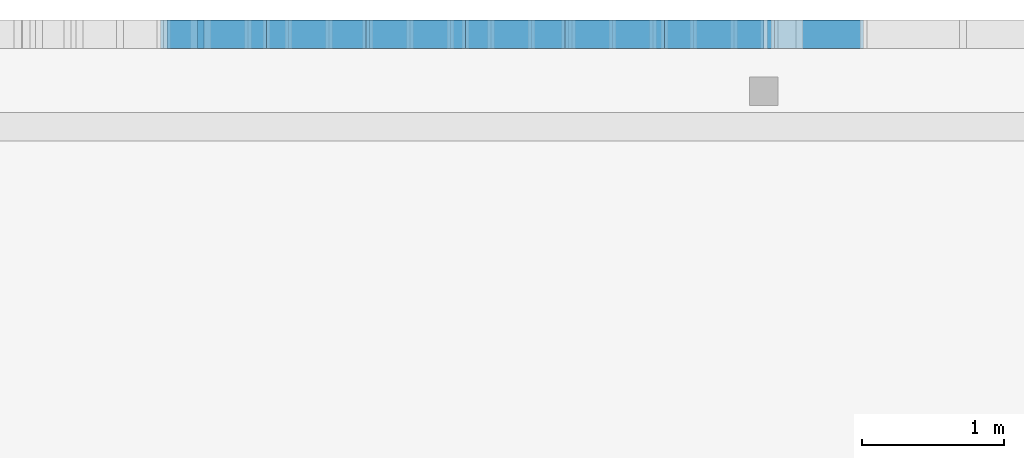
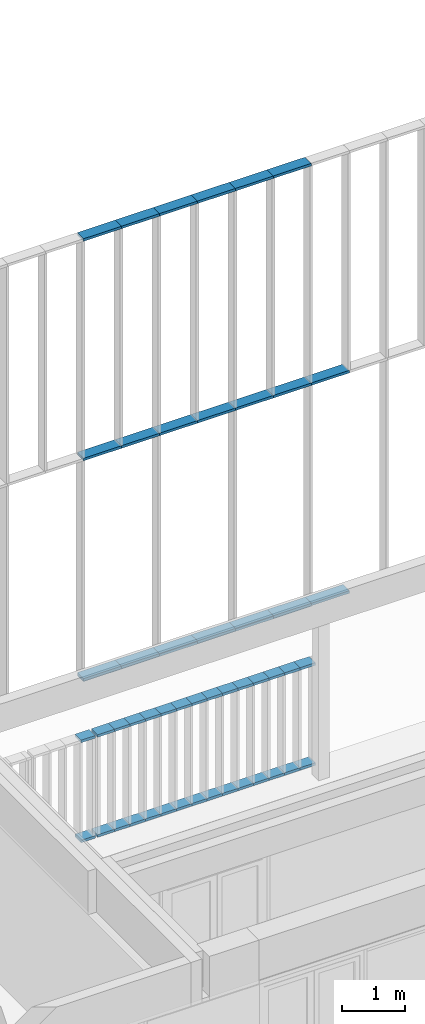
# One storey, part 46 of 240: 56 members, 3 elements without a shape of their own.
"""IFC2X3 building model written with IfcOpenShell, lengths in centimetres."""

from ifc_helpers import new_model, entity, si_unit, converted_unit, derived_unit, direction, frame, origin, origin_2d_with_axis, place, context, subcontext, project, spatial, rectangle, extrude, source, transform, mapped, material, type_object, type_shapes, element, aggregate, save


model = new_model("IFC2X3")

# Units and contexts
model_context = context("Model", 3, precision=0.001, world=origin(), true_north=direction((6.12303176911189e-17, 1.0)))
body_context = subcontext(model_context, "Body", "Model", "MODEL_VIEW")
ifc_project = project(units=[si_unit("LENGTHUNIT", "METRE", prefix="CENTI"), si_unit("AREAUNIT", "SQUARE_METRE"), si_unit("VOLUMEUNIT", "CUBIC_METRE"), converted_unit("PLANEANGLEUNIT", "DEGREE", entity("IfcRatioMeasure", 0.0174532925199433), si_unit("PLANEANGLEUNIT", "RADIAN"), dimensions=[0, 0, 0, 0, 0, 0, 0]), si_unit("MASSUNIT", "GRAM", prefix="KILO"), derived_unit("MASSDENSITYUNIT", [(si_unit("MASSUNIT", "GRAM", prefix="KILO"), 1), (si_unit("LENGTHUNIT", "METRE"), -3)]), si_unit("TIMEUNIT", "SECOND"), si_unit("FREQUENCYUNIT", "HERTZ"), si_unit("THERMODYNAMICTEMPERATUREUNIT", "DEGREE_CELSIUS"), derived_unit("THERMALTRANSMITTANCEUNIT", [(si_unit("MASSUNIT", "GRAM", prefix="KILO"), 1), (si_unit("THERMODYNAMICTEMPERATUREUNIT", "KELVIN"), -1), (si_unit("TIMEUNIT", "SECOND"), -3)]), derived_unit("VOLUMETRICFLOWRATEUNIT", [(si_unit("LENGTHUNIT", "METRE"), 3), (si_unit("TIMEUNIT", "SECOND"), -1)]), si_unit("ELECTRICCURRENTUNIT", "AMPERE"), si_unit("ELECTRICVOLTAGEUNIT", "VOLT"), si_unit("POWERUNIT", "WATT"), si_unit("FORCEUNIT", "NEWTON", prefix="KILO"), si_unit("ILLUMINANCEUNIT", "LUX"), si_unit("LUMINOUSFLUXUNIT", "LUMEN"), si_unit("LUMINOUSINTENSITYUNIT", "CANDELA"), derived_unit("USERDEFINED", [(si_unit("MASSUNIT", "GRAM", prefix="KILO"), -1), (si_unit("LENGTHUNIT", "METRE"), -2), (si_unit("TIMEUNIT", "SECOND"), 3), (si_unit("LUMINOUSFLUXUNIT", "LUMEN"), 1)]), derived_unit("LINEARVELOCITYUNIT", [(si_unit("LENGTHUNIT", "METRE"), 1), (si_unit("TIMEUNIT", "SECOND"), -1)]), si_unit("PRESSUREUNIT", "PASCAL"), derived_unit("USERDEFINED", [(si_unit("LENGTHUNIT", "METRE"), -2), (si_unit("MASSUNIT", "GRAM", prefix="KILO"), 1), (si_unit("TIMEUNIT", "SECOND"), -2)])], contexts=[model_context])

# Site, building, storey
site_placement = place(None, frame((-2781.94577612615, 7442.24238424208, 0.0)))
site = spatial("IfcSite", under=ifc_project, at=site_placement, Name="Default", CompositionType="ELEMENT")
building_placement = place(site_placement, origin())
building = spatial("IfcBuilding", under=site, at=building_placement, CompositionType="ELEMENT")
storey_placement = place(building_placement, origin())
storey = spatial("IfcBuildingStorey", under=building, at=storey_placement, Name="N00 - COO", CompositionType="ELEMENT", Elevation=0.0)

# Curtain wall, members
curtain_wall_type_1 = type_object("IfcCurtainWallType", Name="Mur-rideau:Epines - 200x50mm", PredefinedType="NOTDEFINED")
curtain_wall_1_placement = place(building_placement, origin())
curtain_wall_1 = element("IfcCurtainWall", 1, at=curtain_wall_1_placement, inside=storey, type_object=curtain_wall_type_1, Name="Mur-rideau:Epines - 200x50mm", ObjectType="Mur-rideau:Epines - 200x50mm")
ifc_material = material(Name="Aluminium")
member_type_1 = type_object("IfcMemberType", Name="200x50 mm", PredefinedType="MEMBER")
shared_shape_1 = source(origin(), body_context, "Body", "SweptSolid", [
    extrude(rectangle(XDim=20.0, YDim=5.0, at=origin_2d_with_axis()), frame((-2.5, 0.0, -70.0), z_axis=(0.0, 0.0, 1.0), x_axis=(0.0, -1.0, 0.0)), (0.0, 0.0, 1.0), 70.0000000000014),
])
type_shapes(member_type_1, [shared_shape_1])
member_1_placement = place(building_placement, frame((-4209.49987760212, 40.0, 1176.0), z_axis=(1.0, 0.0, 0.0), x_axis=(0.0, 0.0, 1.0)))
member_1 = element("IfcMember", 2, at=member_1_placement, type_object=member_type_1, material=ifc_material, Name="Meneau rectangulaire:200x50 mm", ObjectType="Meneau rectangulaire:200x50 mm", context=body_context, shape_type="MappedRepresentation", body=[
    mapped(shared_shape_1, transform((0.0, 0.0, 0.0), scale=1.0)),
])
member_2_placement = place(building_placement, frame((-4349.49987760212, 40.0, 1176.0), z_axis=(1.0, 0.0, 0.0), x_axis=(0.0, 0.0, 1.0)))
member_2 = element("IfcMember", 3, at=member_2_placement, type_object=member_type_1, material=ifc_material, Name="Meneau rectangulaire:200x50 mm", ObjectType="Meneau rectangulaire:200x50 mm", context=body_context, shape_type="MappedRepresentation", body=[
    mapped(shared_shape_1, transform((0.0, 0.0, 0.0), scale=1.0)),
])
member_3_placement = place(building_placement, frame((-4069.50004159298, 40.0, 1176.0), z_axis=(1.0, 0.0, 0.0), x_axis=(0.0, 0.0, 1.0)))
member_3 = element("IfcMember", 4, at=member_3_placement, type_object=member_type_1, material=ifc_material, Name="Meneau rectangulaire:200x50 mm", ObjectType="Meneau rectangulaire:200x50 mm", context=body_context, shape_type="MappedRepresentation", body=[
    mapped(shared_shape_1, transform((0.0, 0.0, 0.0), scale=1.0)),
])
member_4_placement = place(building_placement, frame((-4139.49995959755, 40.0, 1176.0), z_axis=(1.0, 0.0, 0.0), x_axis=(0.0, 0.0, 1.0)))
member_4 = element("IfcMember", 5, at=member_4_placement, type_object=member_type_1, material=ifc_material, Name="Meneau rectangulaire:200x50 mm", ObjectType="Meneau rectangulaire:200x50 mm", context=body_context, shape_type="MappedRepresentation", body=[
    mapped(shared_shape_1, transform((0.0, 0.0, 0.0), scale=1.0)),
])
member_5_placement = place(building_placement, frame((-4279.49987760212, 40.0, 1176.0), z_axis=(1.0, 0.0, 0.0), x_axis=(0.0, 0.0, 1.0)))
member_5 = element("IfcMember", 6, at=member_5_placement, type_object=member_type_1, material=ifc_material, Name="Meneau rectangulaire:200x50 mm", ObjectType="Meneau rectangulaire:200x50 mm", context=body_context, shape_type="MappedRepresentation", body=[
    mapped(shared_shape_1, transform((0.0, 0.0, 0.0), scale=1.0)),
])
member_6_placement = place(building_placement, frame((-4419.49987760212, 40.0, 1176.0), z_axis=(1.0, 0.0, 0.0), x_axis=(0.0, 0.0, 1.0)))
member_6 = element("IfcMember", 7, at=member_6_placement, type_object=member_type_1, material=ifc_material, Name="Meneau rectangulaire:200x50 mm", ObjectType="Meneau rectangulaire:200x50 mm", context=body_context, shape_type="MappedRepresentation", body=[
    mapped(shared_shape_1, transform((0.0, 0.0, 0.0), scale=1.0)),
])
member_type_2 = type_object("IfcMemberType", Name="200x50 mm", PredefinedType="MEMBER")
shared_shape_2 = source(origin(), body_context, "Body", "SweptSolid", [
    extrude(rectangle(XDim=20.0, YDim=5.0, at=origin_2d_with_axis()), frame((0.0, 0.0, -70.0), z_axis=(0.0, 0.0, 1.0), x_axis=(0.0, -1.0, 0.0)), (0.0, 0.0, 1.0), 70.0000000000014),
])
type_shapes(member_type_2, [shared_shape_2])
member_7_placement = place(building_placement, frame((-4419.49987760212, 40.0, 315.0), z_axis=(1.0, 0.0, 0.0), x_axis=(0.0, 0.0, 1.0)))
member_7 = element("IfcMember", 8, at=member_7_placement, type_object=member_type_2, material=ifc_material, Name="Meneau rectangulaire:200x50 mm", ObjectType="Meneau rectangulaire:200x50 mm", context=body_context, shape_type="MappedRepresentation", body=[
    mapped(shared_shape_2, transform((0.0, 0.0, 0.0), scale=1.0)),
])
member_8_placement = place(building_placement, frame((-4279.49987760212, 40.0, 315.0), z_axis=(1.0, 0.0, 0.0), x_axis=(0.0, 0.0, 1.0)))
member_8 = element("IfcMember", 9, at=member_8_placement, type_object=member_type_2, material=ifc_material, Name="Meneau rectangulaire:200x50 mm", ObjectType="Meneau rectangulaire:200x50 mm", context=body_context, shape_type="MappedRepresentation", body=[
    mapped(shared_shape_2, transform((0.0, 0.0, 0.0), scale=1.0)),
])
member_9_placement = place(building_placement, frame((-4139.49995959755, 40.0, 315.0), z_axis=(1.0, 0.0, 0.0), x_axis=(0.0, 0.0, 1.0)))
member_9 = element("IfcMember", 10, at=member_9_placement, type_object=member_type_2, material=ifc_material, Name="Meneau rectangulaire:200x50 mm", ObjectType="Meneau rectangulaire:200x50 mm", context=body_context, shape_type="MappedRepresentation", body=[
    mapped(shared_shape_2, transform((0.0, 0.0, 0.0), scale=1.0)),
])
member_type_3 = type_object("IfcMemberType", Name="200x50 mm", PredefinedType="MEMBER")
shared_shape_3 = source(origin(), body_context, "Body", "SweptSolid", [
    extrude(rectangle(XDim=20.0, YDim=5.0, at=origin_2d_with_axis()), frame((0.0, 0.0, -70.0), z_axis=(0.0, 0.0, 1.0), x_axis=(0.0, -1.0, 0.0)), (0.0, 0.0, 1.0), 70.0000000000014),
])
type_shapes(member_type_3, [shared_shape_3])
member_10_placement = place(building_placement, frame((-4419.49987760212, 40.0, 745.5), z_axis=(1.0, 0.0, 0.0), x_axis=(0.0, 0.0, 1.0)))
member_10 = element("IfcMember", 11, at=member_10_placement, type_object=member_type_3, material=ifc_material, Name="Meneau rectangulaire:200x50 mm", ObjectType="Meneau rectangulaire:200x50 mm", context=body_context, shape_type="MappedRepresentation", body=[
    mapped(shared_shape_3, transform((0.0, 0.0, 0.0), scale=1.0)),
])
member_11_placement = place(building_placement, frame((-4139.49995959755, 40.0, 745.5), z_axis=(1.0, 0.0, 0.0), x_axis=(0.0, 0.0, 1.0)))
member_11 = element("IfcMember", 12, at=member_11_placement, type_object=member_type_3, material=ifc_material, Name="Meneau rectangulaire:200x50 mm", ObjectType="Meneau rectangulaire:200x50 mm", context=body_context, shape_type="MappedRepresentation", body=[
    mapped(shared_shape_3, transform((0.0, 0.0, 0.0), scale=1.0)),
])
member_12_placement = place(building_placement, frame((-4279.49987760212, 40.0, 745.5), z_axis=(1.0, 0.0, 0.0), x_axis=(0.0, 0.0, 1.0)))
member_12 = element("IfcMember", 13, at=member_12_placement, type_object=member_type_3, material=ifc_material, Name="Meneau rectangulaire:200x50 mm", ObjectType="Meneau rectangulaire:200x50 mm", context=body_context, shape_type="MappedRepresentation", body=[
    mapped(shared_shape_3, transform((0.0, 0.0, 0.0), scale=1.0)),
])
member_13_placement = place(building_placement, frame((-3999.49995959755, 40.0, 745.5), z_axis=(1.0, 0.0, 0.0), x_axis=(0.0, 0.0, 1.0)))
member_13 = element("IfcMember", 14, at=member_13_placement, type_object=member_type_3, material=ifc_material, Name="Meneau rectangulaire:200x50 mm", ObjectType="Meneau rectangulaire:200x50 mm", context=body_context, shape_type="MappedRepresentation", body=[
    mapped(shared_shape_3, transform((0.0, 0.0, 0.0), scale=1.0)),
])
member_14_placement = place(building_placement, frame((-4069.50004159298, 40.0, 745.5), z_axis=(1.0, 0.0, 0.0), x_axis=(0.0, 0.0, 1.0)))
member_14 = element("IfcMember", 15, at=member_14_placement, type_object=member_type_3, material=ifc_material, Name="Meneau rectangulaire:200x50 mm", ObjectType="Meneau rectangulaire:200x50 mm", context=body_context, shape_type="MappedRepresentation", body=[
    mapped(shared_shape_3, transform((0.0, 0.0, 0.0), scale=1.0)),
])
member_15_placement = place(building_placement, frame((-4209.49987760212, 40.0, 745.5), z_axis=(1.0, 0.0, 0.0), x_axis=(0.0, 0.0, 1.0)))
member_15 = element("IfcMember", 16, at=member_15_placement, type_object=member_type_3, material=ifc_material, Name="Meneau rectangulaire:200x50 mm", ObjectType="Meneau rectangulaire:200x50 mm", context=body_context, shape_type="MappedRepresentation", body=[
    mapped(shared_shape_3, transform((0.0, 0.0, 0.0), scale=1.0)),
])
member_16_placement = place(building_placement, frame((-4349.49987760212, 40.0, 745.5), z_axis=(1.0, 0.0, 0.0), x_axis=(0.0, 0.0, 1.0)))
member_16 = element("IfcMember", 17, at=member_16_placement, type_object=member_type_3, material=ifc_material, Name="Meneau rectangulaire:200x50 mm", ObjectType="Meneau rectangulaire:200x50 mm", context=body_context, shape_type="MappedRepresentation", body=[
    mapped(shared_shape_3, transform((0.0, 0.0, 0.0), scale=1.0)),
])
member_type_4 = type_object("IfcMemberType", Name="200x50 mm", PredefinedType="MEMBER")
shared_shape_4 = source(origin(), body_context, "Body", "SweptSolid", [
    extrude(rectangle(XDim=20.0, YDim=5.0, at=origin_2d_with_axis()), frame((-2.5, 0.0, -70.0), z_axis=(0.0, 0.0, 1.0), x_axis=(0.0, -1.0, 0.0)), (0.0, 0.0, 1.0), 69.9999999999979),
])
type_shapes(member_type_4, [shared_shape_4])
member_17_placement = place(building_placement, frame((-4489.49987760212, 40.0, 313.499999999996), z_axis=(-1.0, 0.0, 0.0), x_axis=(0.0, 0.0, -1.0)))
member_17 = element("IfcMember", 18, at=member_17_placement, type_object=member_type_4, material=ifc_material, Name="Meneau rectangulaire:200x50 mm", ObjectType="Meneau rectangulaire:200x50 mm", context=body_context, shape_type="MappedRepresentation", body=[
    mapped(shared_shape_4, transform((0.0, 0.0, 0.0), scale=1.0)),
])
member_18_placement = place(building_placement, frame((-4209.49987760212, 40.0, 313.499999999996), z_axis=(-1.0, 0.0, 0.0), x_axis=(0.0, 0.0, -1.0)))
member_18 = element("IfcMember", 19, at=member_18_placement, type_object=member_type_4, material=ifc_material, Name="Meneau rectangulaire:200x50 mm", ObjectType="Meneau rectangulaire:200x50 mm", context=body_context, shape_type="MappedRepresentation", body=[
    mapped(shared_shape_4, transform((0.0, 0.0, 0.0), scale=1.0)),
])
member_19_placement = place(building_placement, frame((-4349.49987760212, 40.0, 313.499999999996), z_axis=(-1.0, 0.0, 0.0), x_axis=(0.0, 0.0, -1.0)))
member_19 = element("IfcMember", 20, at=member_19_placement, type_object=member_type_4, material=ifc_material, Name="Meneau rectangulaire:200x50 mm", ObjectType="Meneau rectangulaire:200x50 mm", context=body_context, shape_type="MappedRepresentation", body=[
    mapped(shared_shape_4, transform((0.0, 0.0, 0.0), scale=1.0)),
])
member_20_placement = place(building_placement, frame((-4069.50004159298, 40.0, 313.499999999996), z_axis=(-1.0, 0.0, 0.0), x_axis=(0.0, 0.0, -1.0)))
member_20 = element("IfcMember", 21, at=member_20_placement, type_object=member_type_4, material=ifc_material, Name="Meneau rectangulaire:200x50 mm", ObjectType="Meneau rectangulaire:200x50 mm", context=body_context, shape_type="MappedRepresentation", body=[
    mapped(shared_shape_4, transform((0.0, 0.0, 0.0), scale=1.0)),
])
member_21_placement = place(building_placement, frame((-4139.49995959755, 40.0, 313.499999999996), z_axis=(-1.0, 0.0, 0.0), x_axis=(0.0, 0.0, -1.0)))
member_21 = element("IfcMember", 22, at=member_21_placement, type_object=member_type_4, material=ifc_material, Name="Meneau rectangulaire:200x50 mm", ObjectType="Meneau rectangulaire:200x50 mm", context=body_context, shape_type="MappedRepresentation", body=[
    mapped(shared_shape_4, transform((0.0, 0.0, 0.0), scale=1.0)),
])
member_22_placement = place(building_placement, frame((-4279.49987760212, 40.0, 313.499999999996), z_axis=(-1.0, 0.0, 0.0), x_axis=(0.0, 0.0, -1.0)))
member_22 = element("IfcMember", 23, at=member_22_placement, type_object=member_type_4, material=ifc_material, Name="Meneau rectangulaire:200x50 mm", ObjectType="Meneau rectangulaire:200x50 mm", context=body_context, shape_type="MappedRepresentation", body=[
    mapped(shared_shape_4, transform((0.0, 0.0, 0.0), scale=1.0)),
])
member_23_placement = place(building_placement, frame((-4419.49987760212, 40.0, 313.499999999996), z_axis=(-1.0, 0.0, 0.0), x_axis=(0.0, 0.0, -1.0)))
member_23 = element("IfcMember", 24, at=member_23_placement, type_object=member_type_4, material=ifc_material, Name="Meneau rectangulaire:200x50 mm", ObjectType="Meneau rectangulaire:200x50 mm", context=body_context, shape_type="MappedRepresentation", body=[
    mapped(shared_shape_4, transform((0.0, 0.0, 0.0), scale=1.0)),
])
member_type_5 = type_object("IfcMemberType", Name="200x50 mm", PredefinedType="MEMBER")
shared_shape_5 = source(origin(), body_context, "Body", "SweptSolid", [
    extrude(rectangle(XDim=20.0, YDim=5.0, at=origin_2d_with_axis()), frame((0.0, 0.0, -70.0), z_axis=(0.0, 0.0, 1.0), x_axis=(0.0, -1.0, 0.0)), (0.0, 0.0, 1.0), 70.0000000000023),
])
type_shapes(member_type_5, [shared_shape_5])
member_24_placement = place(building_placement, frame((-4349.49987760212, 40.0, 315.0), z_axis=(1.0, 0.0, 0.0), x_axis=(0.0, 0.0, 1.0)))
member_24 = element("IfcMember", 25, at=member_24_placement, type_object=member_type_5, material=ifc_material, Name="Meneau rectangulaire:200x50 mm", ObjectType="Meneau rectangulaire:200x50 mm", context=body_context, shape_type="MappedRepresentation", body=[
    mapped(shared_shape_5, transform((0.0, 0.0, 0.0), scale=1.0)),
])
member_25_placement = place(building_placement, frame((-4209.49987760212, 40.0, 315.0), z_axis=(1.0, 0.0, 0.0), x_axis=(0.0, 0.0, 1.0)))
member_25 = element("IfcMember", 26, at=member_25_placement, type_object=member_type_5, material=ifc_material, Name="Meneau rectangulaire:200x50 mm", ObjectType="Meneau rectangulaire:200x50 mm", context=body_context, shape_type="MappedRepresentation", body=[
    mapped(shared_shape_5, transform((0.0, 0.0, 0.0), scale=1.0)),
])
member_26_placement = place(building_placement, frame((-4069.50004159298, 40.0, 315.0), z_axis=(1.0, 0.0, 0.0), x_axis=(0.0, 0.0, 1.0)))
member_26 = element("IfcMember", 27, at=member_26_placement, type_object=member_type_5, material=ifc_material, Name="Meneau rectangulaire:200x50 mm", ObjectType="Meneau rectangulaire:200x50 mm", context=body_context, shape_type="MappedRepresentation", body=[
    mapped(shared_shape_5, transform((0.0, 0.0, 0.0), scale=1.0)),
])
aggregate(curtain_wall_1, [member_17, member_10, member_1, member_18, member_11, member_2, member_19, member_12, member_3, member_20, member_13, member_4, member_21, member_14, member_5, member_22, member_15, member_6, member_23, member_16, member_7, member_24, member_8, member_25, member_9, member_26])

curtain_wall_type_2 = type_object("IfcCurtainWallType", Name="Mur-SR", PredefinedType="NOTDEFINED")
curtain_wall_2_placement = place(building_placement, origin())
curtain_wall_2 = element("IfcCurtainWall", 28, at=curtain_wall_2_placement, inside=storey, type_object=curtain_wall_type_2, Name="Mur-rideau:SR-Clôture", ObjectType="Mur-rideau:SR-Clôture")
member_type_6 = type_object("IfcMemberType", Name="Epine nord (200x50 mm)", PredefinedType="MEMBER")
shared_shape_6 = source(origin(), body_context, "Body", "SweptSolid", [
    extrude(rectangle(XDim=20.0, YDim=5.0, at=origin_2d_with_axis()), frame((-2.5, 0.0, -31.0), z_axis=(0.0, 0.0, 1.0), x_axis=(0.0, -1.0, 0.0)), (0.0, 0.0, 1.0), 31.0000000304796),
])
type_shapes(member_type_6, [shared_shape_6])
member_27_placement = place(building_placement, frame((-4432.49291430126, 40.0, 200.0), z_axis=(1.0, 0.0, 0.0), x_axis=(0.0, 0.0, 1.0)))
member_27 = element("IfcMember", 29, at=member_27_placement, type_object=member_type_6, material=ifc_material, Name="Meneau rectangulaire:Epine nord (200x50 mm)", ObjectType="Meneau rectangulaire:Epine nord (200x50 mm)", context=body_context, shape_type="MappedRepresentation", body=[
    mapped(shared_shape_6, transform((0.0, 0.0, 0.0), scale=1.0)),
])
member_type_7 = type_object("IfcMemberType", Name="Epine nord (200x50 mm)", PredefinedType="MEMBER")
shared_shape_7 = source(origin(), body_context, "Body", "SweptSolid", [
    extrude(rectangle(XDim=20.0, YDim=5.0, at=origin_2d_with_axis()), frame((-2.5, 0.0, -28.5000000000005), z_axis=(0.0, 0.0, 1.0), x_axis=(0.0, -1.0, 0.0)), (0.0, 0.0, 1.0), 28.5000000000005),
])
type_shapes(member_type_7, [shared_shape_7])
member_28_placement = place(building_placement, frame((-4403.99291430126, 40.0, 200.0), z_axis=(1.0, 0.0, 0.0), x_axis=(0.0, 0.0, 1.0)))
member_28 = element("IfcMember", 30, at=member_28_placement, type_object=member_type_7, material=ifc_material, Name="Meneau rectangulaire:Epine nord (200x50 mm)", ObjectType="Meneau rectangulaire:Epine nord (200x50 mm)", context=body_context, shape_type="MappedRepresentation", body=[
    mapped(shared_shape_7, transform((0.0, 0.0, 0.0), scale=1.0)),
])
member_29_placement = place(building_placement, frame((-4375.49291430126, 40.0, 200.0), z_axis=(1.0, 0.0, 0.0), x_axis=(0.0, 0.0, 1.0)))
member_29 = element("IfcMember", 31, at=member_29_placement, type_object=member_type_7, material=ifc_material, Name="Meneau rectangulaire:Epine nord (200x50 mm)", ObjectType="Meneau rectangulaire:Epine nord (200x50 mm)", context=body_context, shape_type="MappedRepresentation", body=[
    mapped(shared_shape_7, transform((0.0, 0.0, 0.0), scale=1.0)),
])
member_30_placement = place(building_placement, frame((-4346.99291430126, 40.0, 200.0), z_axis=(1.0, 0.0, 0.0), x_axis=(0.0, 0.0, 1.0)))
member_30 = element("IfcMember", 32, at=member_30_placement, type_object=member_type_7, material=ifc_material, Name="Meneau rectangulaire:Epine nord (200x50 mm)", ObjectType="Meneau rectangulaire:Epine nord (200x50 mm)", context=body_context, shape_type="MappedRepresentation", body=[
    mapped(shared_shape_7, transform((0.0, 0.0, 0.0), scale=1.0)),
])
member_31_placement = place(building_placement, frame((-4318.49291430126, 40.0, 200.0), z_axis=(1.0, 0.0, 0.0), x_axis=(0.0, 0.0, 1.0)))
member_31 = element("IfcMember", 33, at=member_31_placement, type_object=member_type_7, material=ifc_material, Name="Meneau rectangulaire:Epine nord (200x50 mm)", ObjectType="Meneau rectangulaire:Epine nord (200x50 mm)", context=body_context, shape_type="MappedRepresentation", body=[
    mapped(shared_shape_7, transform((0.0, 0.0, 0.0), scale=1.0)),
])
member_32_placement = place(building_placement, frame((-4289.99291430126, 40.0, 200.0), z_axis=(1.0, 0.0, 0.0), x_axis=(0.0, 0.0, 1.0)))
member_32 = element("IfcMember", 34, at=member_32_placement, type_object=member_type_7, material=ifc_material, Name="Meneau rectangulaire:Epine nord (200x50 mm)", ObjectType="Meneau rectangulaire:Epine nord (200x50 mm)", context=body_context, shape_type="MappedRepresentation", body=[
    mapped(shared_shape_7, transform((0.0, 0.0, 0.0), scale=1.0)),
])
member_33_placement = place(building_placement, frame((-4261.49291430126, 40.0, 200.0), z_axis=(1.0, 0.0, 0.0), x_axis=(0.0, 0.0, 1.0)))
member_33 = element("IfcMember", 35, at=member_33_placement, type_object=member_type_7, material=ifc_material, Name="Meneau rectangulaire:Epine nord (200x50 mm)", ObjectType="Meneau rectangulaire:Epine nord (200x50 mm)", context=body_context, shape_type="MappedRepresentation", body=[
    mapped(shared_shape_7, transform((0.0, 0.0, 0.0), scale=1.0)),
])
member_34_placement = place(building_placement, frame((-4232.99291430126, 40.0, 200.0), z_axis=(1.0, 0.0, 0.0), x_axis=(0.0, 0.0, 1.0)))
member_34 = element("IfcMember", 36, at=member_34_placement, type_object=member_type_7, material=ifc_material, Name="Meneau rectangulaire:Epine nord (200x50 mm)", ObjectType="Meneau rectangulaire:Epine nord (200x50 mm)", context=body_context, shape_type="MappedRepresentation", body=[
    mapped(shared_shape_7, transform((0.0, 0.0, 0.0), scale=1.0)),
])
member_35_placement = place(building_placement, frame((-4204.49291430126, 40.0, 200.0), z_axis=(1.0, 0.0, 0.0), x_axis=(0.0, 0.0, 1.0)))
member_35 = element("IfcMember", 37, at=member_35_placement, type_object=member_type_7, material=ifc_material, Name="Meneau rectangulaire:Epine nord (200x50 mm)", ObjectType="Meneau rectangulaire:Epine nord (200x50 mm)", context=body_context, shape_type="MappedRepresentation", body=[
    mapped(shared_shape_7, transform((0.0, 0.0, 0.0), scale=1.0)),
])
member_36_placement = place(building_placement, frame((-4175.99291430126, 40.0, 200.0), z_axis=(1.0, 0.0, 0.0), x_axis=(0.0, 0.0, 1.0)))
member_36 = element("IfcMember", 38, at=member_36_placement, type_object=member_type_7, material=ifc_material, Name="Meneau rectangulaire:Epine nord (200x50 mm)", ObjectType="Meneau rectangulaire:Epine nord (200x50 mm)", context=body_context, shape_type="MappedRepresentation", body=[
    mapped(shared_shape_7, transform((0.0, 0.0, 0.0), scale=1.0)),
])
member_37_placement = place(building_placement, frame((-4147.49291430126, 40.0, 200.0), z_axis=(1.0, 0.0, 0.0), x_axis=(0.0, 0.0, 1.0)))
member_37 = element("IfcMember", 39, at=member_37_placement, type_object=member_type_7, material=ifc_material, Name="Meneau rectangulaire:Epine nord (200x50 mm)", ObjectType="Meneau rectangulaire:Epine nord (200x50 mm)", context=body_context, shape_type="MappedRepresentation", body=[
    mapped(shared_shape_7, transform((0.0, 0.0, 0.0), scale=1.0)),
])
member_38_placement = place(building_placement, frame((-4118.99291430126, 40.0, 200.0), z_axis=(1.0, 0.0, 0.0), x_axis=(0.0, 0.0, 1.0)))
member_38 = element("IfcMember", 40, at=member_38_placement, type_object=member_type_7, material=ifc_material, Name="Meneau rectangulaire:Epine nord (200x50 mm)", ObjectType="Meneau rectangulaire:Epine nord (200x50 mm)", context=body_context, shape_type="MappedRepresentation", body=[
    mapped(shared_shape_7, transform((0.0, 0.0, 0.0), scale=1.0)),
])
member_39_placement = place(building_placement, frame((-4090.49291430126, 40.0, 200.0), z_axis=(1.0, 0.0, 0.0), x_axis=(0.0, 0.0, 1.0)))
member_39 = element("IfcMember", 41, at=member_39_placement, type_object=member_type_7, material=ifc_material, Name="Meneau rectangulaire:Epine nord (200x50 mm)", ObjectType="Meneau rectangulaire:Epine nord (200x50 mm)", context=body_context, shape_type="MappedRepresentation", body=[
    mapped(shared_shape_7, transform((0.0, 0.0, 0.0), scale=1.0)),
])
member_40_placement = place(building_placement, frame((-4061.99291430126, 40.0, 200.0), z_axis=(1.0, 0.0, 0.0), x_axis=(0.0, 0.0, 1.0)))
member_40 = element("IfcMember", 42, at=member_40_placement, type_object=member_type_7, material=ifc_material, Name="Meneau rectangulaire:Epine nord (200x50 mm)", ObjectType="Meneau rectangulaire:Epine nord (200x50 mm)", context=body_context, shape_type="MappedRepresentation", body=[
    mapped(shared_shape_7, transform((0.0, 0.0, 0.0), scale=1.0)),
])
member_type_8 = type_object("IfcMemberType", Name="Epine nord (200x50 mm)", PredefinedType="MEMBER")
shared_shape_8 = source(origin(), body_context, "Body", "SweptSolid", [
    extrude(rectangle(XDim=20.0, YDim=5.0, at=origin_2d_with_axis()), frame((-2.5, 0.0, -28.5000000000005), z_axis=(0.0, 0.0, 1.0), x_axis=(0.0, -1.0, 0.0)), (0.0, 0.0, 1.0), 28.5000000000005),
])
type_shapes(member_type_8, [shared_shape_8])
member_41_placement = place(building_placement, frame((-4432.49291430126, 40.0, 0.0), z_axis=(-1.0, 0.0, 0.0), x_axis=(0.0, 0.0, -1.0)))
member_41 = element("IfcMember", 43, at=member_41_placement, type_object=member_type_8, material=ifc_material, Name="Meneau rectangulaire:Epine nord (200x50 mm)", ObjectType="Meneau rectangulaire:Epine nord (200x50 mm)", context=body_context, shape_type="MappedRepresentation", body=[
    mapped(shared_shape_8, transform((0.0, 0.0, 0.0), scale=1.0)),
])
member_42_placement = place(building_placement, frame((-4403.99291430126, 40.0, 0.0), z_axis=(-1.0, 0.0, 0.0), x_axis=(0.0, 0.0, -1.0)))
member_42 = element("IfcMember", 44, at=member_42_placement, type_object=member_type_8, material=ifc_material, Name="Meneau rectangulaire:Epine nord (200x50 mm)", ObjectType="Meneau rectangulaire:Epine nord (200x50 mm)", context=body_context, shape_type="MappedRepresentation", body=[
    mapped(shared_shape_8, transform((0.0, 0.0, 0.0), scale=1.0)),
])
member_43_placement = place(building_placement, frame((-4375.49291430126, 40.0, 0.0), z_axis=(-1.0, 0.0, 0.0), x_axis=(0.0, 0.0, -1.0)))
member_43 = element("IfcMember", 45, at=member_43_placement, type_object=member_type_8, material=ifc_material, Name="Meneau rectangulaire:Epine nord (200x50 mm)", ObjectType="Meneau rectangulaire:Epine nord (200x50 mm)", context=body_context, shape_type="MappedRepresentation", body=[
    mapped(shared_shape_8, transform((0.0, 0.0, 0.0), scale=1.0)),
])
member_44_placement = place(building_placement, frame((-4346.99291430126, 40.0, 0.0), z_axis=(-1.0, 0.0, 0.0), x_axis=(0.0, 0.0, -1.0)))
member_44 = element("IfcMember", 46, at=member_44_placement, type_object=member_type_8, material=ifc_material, Name="Meneau rectangulaire:Epine nord (200x50 mm)", ObjectType="Meneau rectangulaire:Epine nord (200x50 mm)", context=body_context, shape_type="MappedRepresentation", body=[
    mapped(shared_shape_8, transform((0.0, 0.0, 0.0), scale=1.0)),
])
member_45_placement = place(building_placement, frame((-4318.49291430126, 40.0, 0.0), z_axis=(-1.0, 0.0, 0.0), x_axis=(0.0, 0.0, -1.0)))
member_45 = element("IfcMember", 47, at=member_45_placement, type_object=member_type_8, material=ifc_material, Name="Meneau rectangulaire:Epine nord (200x50 mm)", ObjectType="Meneau rectangulaire:Epine nord (200x50 mm)", context=body_context, shape_type="MappedRepresentation", body=[
    mapped(shared_shape_8, transform((0.0, 0.0, 0.0), scale=1.0)),
])
member_46_placement = place(building_placement, frame((-4289.99291430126, 40.0, 0.0), z_axis=(-1.0, 0.0, 0.0), x_axis=(0.0, 0.0, -1.0)))
member_46 = element("IfcMember", 48, at=member_46_placement, type_object=member_type_8, material=ifc_material, Name="Meneau rectangulaire:Epine nord (200x50 mm)", ObjectType="Meneau rectangulaire:Epine nord (200x50 mm)", context=body_context, shape_type="MappedRepresentation", body=[
    mapped(shared_shape_8, transform((0.0, 0.0, 0.0), scale=1.0)),
])
member_47_placement = place(building_placement, frame((-4261.49291430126, 40.0, 0.0), z_axis=(-1.0, 0.0, 0.0), x_axis=(0.0, 0.0, -1.0)))
member_47 = element("IfcMember", 49, at=member_47_placement, type_object=member_type_8, material=ifc_material, Name="Meneau rectangulaire:Epine nord (200x50 mm)", ObjectType="Meneau rectangulaire:Epine nord (200x50 mm)", context=body_context, shape_type="MappedRepresentation", body=[
    mapped(shared_shape_8, transform((0.0, 0.0, 0.0), scale=1.0)),
])
member_48_placement = place(building_placement, frame((-4232.99291430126, 40.0, 0.0), z_axis=(-1.0, 0.0, 0.0), x_axis=(0.0, 0.0, -1.0)))
member_48 = element("IfcMember", 50, at=member_48_placement, type_object=member_type_8, material=ifc_material, Name="Meneau rectangulaire:Epine nord (200x50 mm)", ObjectType="Meneau rectangulaire:Epine nord (200x50 mm)", context=body_context, shape_type="MappedRepresentation", body=[
    mapped(shared_shape_8, transform((0.0, 0.0, 0.0), scale=1.0)),
])
member_49_placement = place(building_placement, frame((-4204.49291430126, 40.0, 0.0), z_axis=(-1.0, 0.0, 0.0), x_axis=(0.0, 0.0, -1.0)))
member_49 = element("IfcMember", 51, at=member_49_placement, type_object=member_type_8, material=ifc_material, Name="Meneau rectangulaire:Epine nord (200x50 mm)", ObjectType="Meneau rectangulaire:Epine nord (200x50 mm)", context=body_context, shape_type="MappedRepresentation", body=[
    mapped(shared_shape_8, transform((0.0, 0.0, 0.0), scale=1.0)),
])
member_50_placement = place(building_placement, frame((-4175.99291430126, 40.0, 0.0), z_axis=(-1.0, 0.0, 0.0), x_axis=(0.0, 0.0, -1.0)))
member_50 = element("IfcMember", 52, at=member_50_placement, type_object=member_type_8, material=ifc_material, Name="Meneau rectangulaire:Epine nord (200x50 mm)", ObjectType="Meneau rectangulaire:Epine nord (200x50 mm)", context=body_context, shape_type="MappedRepresentation", body=[
    mapped(shared_shape_8, transform((0.0, 0.0, 0.0), scale=1.0)),
])
member_51_placement = place(building_placement, frame((-4147.49291430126, 40.0, 0.0), z_axis=(-1.0, 0.0, 0.0), x_axis=(0.0, 0.0, -1.0)))
member_51 = element("IfcMember", 53, at=member_51_placement, type_object=member_type_8, material=ifc_material, Name="Meneau rectangulaire:Epine nord (200x50 mm)", ObjectType="Meneau rectangulaire:Epine nord (200x50 mm)", context=body_context, shape_type="MappedRepresentation", body=[
    mapped(shared_shape_8, transform((0.0, 0.0, 0.0), scale=1.0)),
])
member_52_placement = place(building_placement, frame((-4118.99291430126, 40.0, 0.0), z_axis=(-1.0, 0.0, 0.0), x_axis=(0.0, 0.0, -1.0)))
member_52 = element("IfcMember", 54, at=member_52_placement, type_object=member_type_8, material=ifc_material, Name="Meneau rectangulaire:Epine nord (200x50 mm)", ObjectType="Meneau rectangulaire:Epine nord (200x50 mm)", context=body_context, shape_type="MappedRepresentation", body=[
    mapped(shared_shape_8, transform((0.0, 0.0, 0.0), scale=1.0)),
])
member_53_placement = place(building_placement, frame((-4090.49291430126, 40.0, 0.0), z_axis=(-1.0, 0.0, 0.0), x_axis=(0.0, 0.0, -1.0)))
member_53 = element("IfcMember", 55, at=member_53_placement, type_object=member_type_8, material=ifc_material, Name="Meneau rectangulaire:Epine nord (200x50 mm)", ObjectType="Meneau rectangulaire:Epine nord (200x50 mm)", context=body_context, shape_type="MappedRepresentation", body=[
    mapped(shared_shape_8, transform((0.0, 0.0, 0.0), scale=1.0)),
])
member_type_9 = type_object("IfcMemberType", Name="Epine nord (200x50 mm)", PredefinedType="MEMBER")
shared_shape_9 = source(origin(), body_context, "Body", "SweptSolid", [
    extrude(rectangle(XDim=20.0, YDim=5.0, at=origin_2d_with_axis()), frame((-2.5, 0.0, -31.0), z_axis=(0.0, 0.0, 1.0), x_axis=(0.0, -1.0, 0.0)), (0.0, 0.0, 1.0), 31.0000000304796),
])
type_shapes(member_type_9, [shared_shape_9])
member_54_placement = place(building_placement, frame((-4463.49291433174, 40.0, 0.0), z_axis=(-1.0, 0.0, 0.0), x_axis=(0.0, 0.0, -1.0)))
member_54 = element("IfcMember", 56, at=member_54_placement, type_object=member_type_9, material=ifc_material, Name="Meneau rectangulaire:Epine nord (200x50 mm)", ObjectType="Meneau rectangulaire:Epine nord (200x50 mm)", context=body_context, shape_type="MappedRepresentation", body=[
    mapped(shared_shape_9, transform((0.0, 0.0, 0.0), scale=1.0)),
])
aggregate(curtain_wall_2, [member_27, member_28, member_29, member_30, member_31, member_32, member_33, member_34, member_35, member_36, member_37, member_38, member_39, member_54, member_41, member_42, member_43, member_44, member_45, member_46, member_47, member_48, member_49, member_50, member_51, member_52, member_53, member_40])

curtain_wall_3_placement = place(storey_placement, origin())
curtain_wall_3 = element("IfcCurtainWall", 57, at=curtain_wall_3_placement, inside=storey, type_object=curtain_wall_type_2, Name="Mur-SR", ObjectType="Mur-SR")
member_type_10 = type_object("IfcMemberType", Name="Epine nord (200x50 mm)", PredefinedType="MEMBER")
shared_shape_10 = source(origin(), body_context, "Body", "SweptSolid", [
    extrude(rectangle(XDim=20.0, YDim=5.0, at=origin_2d_with_axis()), frame((-2.5, 0.0, -26.0), z_axis=(0.0, 0.0, 1.0), x_axis=(0.0, -1.0, 0.0)), (0.0, 0.0, 1.0), 25.9999999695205),
])
type_shapes(member_type_10, [shared_shape_10])
member_55_placement = place(storey_placement, frame((-4493.99291430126, 40.0, 0.0), z_axis=(-1.0, 0.0, 0.0), x_axis=(0.0, 0.0, -1.0)))
member_55 = element("IfcMember", 58, at=member_55_placement, type_object=member_type_10, material=ifc_material, Name="Meneau rectangulaire:Epine nord (200x50 mm)", ObjectType="Meneau rectangulaire:Epine nord (200x50 mm)", context=body_context, shape_type="MappedRepresentation", body=[
    mapped(shared_shape_10, transform((0.0, 0.0, 0.0), scale=1.0)),
])
member_type_11 = type_object("IfcMemberType", Name="Epine nord (200x50 mm)", PredefinedType="MEMBER")
shared_shape_11 = source(origin(), body_context, "Body", "SweptSolid", [
    extrude(rectangle(XDim=20.0, YDim=5.0, at=origin_2d_with_axis()), frame((-2.5, 0.0, -26.0), z_axis=(0.0, 0.0, 1.0), x_axis=(0.0, -1.0, 0.0)), (0.0, 0.0, 1.0), 25.9999999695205),
])
type_shapes(member_type_11, [shared_shape_11])
member_56_placement = place(storey_placement, frame((-4467.99291433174, 40.0, 200.0), z_axis=(1.0, 0.0, 0.0), x_axis=(0.0, 0.0, 1.0)))
member_56 = element("IfcMember", 59, at=member_56_placement, type_object=member_type_11, material=ifc_material, Name="Meneau rectangulaire:Epine nord (200x50 mm)", ObjectType="Meneau rectangulaire:Epine nord (200x50 mm)", context=body_context, shape_type="MappedRepresentation", body=[
    mapped(shared_shape_11, transform((0.0, 0.0, 0.0), scale=1.0)),
])
aggregate(curtain_wall_3, [member_55, member_56])

save(model, "model.ifc")
